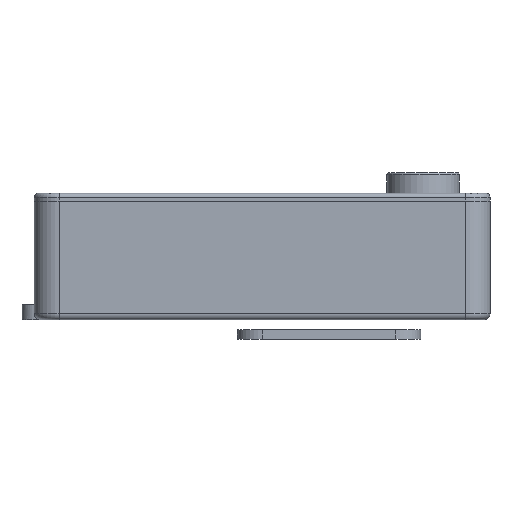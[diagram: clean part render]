
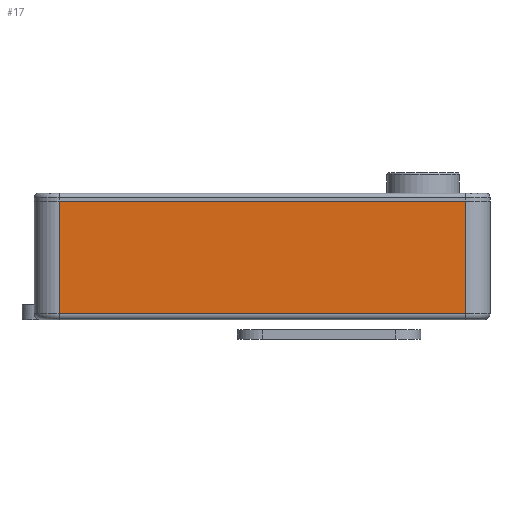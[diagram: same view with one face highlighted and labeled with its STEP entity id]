
A CAD part, left-side view. The second image highlights one B-rep face of the part: STEP entity #17.
In plain terms, the highlighted planar face has unit normal (-1, 0, 0).
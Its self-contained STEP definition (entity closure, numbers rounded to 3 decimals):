
#17 = ADVANCED_FACE('',(#18),#32,.T.);
#18 = FACE_BOUND('',#19,.T.);
#19 = EDGE_LOOP('',(#20,#55,#83,#111));
#20 = ORIENTED_EDGE('',*,*,#21,.T.);
#21 = EDGE_CURVE('',#22,#24,#26,.T.);
#22 = VERTEX_POINT('',#23);
#23 = CARTESIAN_POINT('',(-24.5,-27.5,-4.3));
#24 = VERTEX_POINT('',#25);
#25 = CARTESIAN_POINT('',(-24.5,-27.5,18.4));
#26 = SURFACE_CURVE('',#27,(#31,#43),.PCURVE_S1.);
#27 = LINE('',#28,#29);
#28 = CARTESIAN_POINT('',(-24.5,-27.5,-5.5));
#29 = VECTOR('',#30,1.);
#30 = DIRECTION('',(0.,0.,1.));
#31 = PCURVE('',#32,#37);
#32 = PLANE('',#33);
#33 = AXIS2_PLACEMENT_3D('',#34,#35,#36);
#34 = CARTESIAN_POINT('',(-24.5,-27.5,-5.5));
#35 = DIRECTION('',(-1.,0.,0.));
#36 = DIRECTION('',(0.,1.,0.));
#37 = DEFINITIONAL_REPRESENTATION('',(#38),#42);
#38 = LINE('',#39,#40);
#39 = CARTESIAN_POINT('',(0.,0.));
#40 = VECTOR('',#41,1.);
#41 = DIRECTION('',(0.,-1.));
#42 = ( GEOMETRIC_REPRESENTATION_CONTEXT(2) 
PARAMETRIC_REPRESENTATION_CONTEXT() REPRESENTATION_CONTEXT('2D SPACE',''
  ) );
#43 = PCURVE('',#44,#49);
#44 = CYLINDRICAL_SURFACE('',#45,5.);
#45 = AXIS2_PLACEMENT_3D('',#46,#47,#48);
#46 = CARTESIAN_POINT('',(-19.5,-27.5,-5.5));
#47 = DIRECTION('',(-0.,-0.,-1.));
#48 = DIRECTION('',(1.,0.,0.));
#49 = DEFINITIONAL_REPRESENTATION('',(#50),#54);
#50 = LINE('',#51,#52);
#51 = CARTESIAN_POINT('',(-3.142,0.));
#52 = VECTOR('',#53,1.);
#53 = DIRECTION('',(-0.,-1.));
#54 = ( GEOMETRIC_REPRESENTATION_CONTEXT(2) 
PARAMETRIC_REPRESENTATION_CONTEXT() REPRESENTATION_CONTEXT('2D SPACE',''
  ) );
#55 = ORIENTED_EDGE('',*,*,#56,.T.);
#56 = EDGE_CURVE('',#24,#57,#59,.T.);
#57 = VERTEX_POINT('',#58);
#58 = CARTESIAN_POINT('',(-24.5,54.5,18.4));
#59 = SURFACE_CURVE('',#60,(#64,#71),.PCURVE_S1.);
#60 = LINE('',#61,#62);
#61 = CARTESIAN_POINT('',(-24.5,13.5,18.4));
#62 = VECTOR('',#63,1.);
#63 = DIRECTION('',(0.,1.,0.));
#64 = PCURVE('',#32,#65);
#65 = DEFINITIONAL_REPRESENTATION('',(#66),#70);
#66 = LINE('',#67,#68);
#67 = CARTESIAN_POINT('',(41.,-23.9));
#68 = VECTOR('',#69,1.);
#69 = DIRECTION('',(1.,0.));
#70 = ( GEOMETRIC_REPRESENTATION_CONTEXT(2) 
PARAMETRIC_REPRESENTATION_CONTEXT() REPRESENTATION_CONTEXT('2D SPACE',''
  ) );
#71 = PCURVE('',#72,#77);
#72 = PLANE('',#73);
#73 = AXIS2_PLACEMENT_3D('',#74,#75,#76);
#74 = CARTESIAN_POINT('',(0.,13.5,18.4));
#75 = DIRECTION('',(0.,0.,1.));
#76 = DIRECTION('',(1.,0.,-0.));
#77 = DEFINITIONAL_REPRESENTATION('',(#78),#82);
#78 = LINE('',#79,#80);
#79 = CARTESIAN_POINT('',(-24.5,0.));
#80 = VECTOR('',#81,1.);
#81 = DIRECTION('',(0.,1.));
#82 = ( GEOMETRIC_REPRESENTATION_CONTEXT(2) 
PARAMETRIC_REPRESENTATION_CONTEXT() REPRESENTATION_CONTEXT('2D SPACE',''
  ) );
#83 = ORIENTED_EDGE('',*,*,#84,.F.);
#84 = EDGE_CURVE('',#85,#57,#87,.T.);
#85 = VERTEX_POINT('',#86);
#86 = CARTESIAN_POINT('',(-24.5,54.5,-4.3));
#87 = SURFACE_CURVE('',#88,(#92,#99),.PCURVE_S1.);
#88 = LINE('',#89,#90);
#89 = CARTESIAN_POINT('',(-24.5,54.5,-5.5));
#90 = VECTOR('',#91,1.);
#91 = DIRECTION('',(0.,0.,1.));
#92 = PCURVE('',#32,#93);
#93 = DEFINITIONAL_REPRESENTATION('',(#94),#98);
#94 = LINE('',#95,#96);
#95 = CARTESIAN_POINT('',(82.,0.));
#96 = VECTOR('',#97,1.);
#97 = DIRECTION('',(0.,-1.));
#98 = ( GEOMETRIC_REPRESENTATION_CONTEXT(2) 
PARAMETRIC_REPRESENTATION_CONTEXT() REPRESENTATION_CONTEXT('2D SPACE',''
  ) );
#99 = PCURVE('',#100,#105);
#100 = CYLINDRICAL_SURFACE('',#101,5.);
#101 = AXIS2_PLACEMENT_3D('',#102,#103,#104);
#102 = CARTESIAN_POINT('',(-19.5,54.5,-5.5));
#103 = DIRECTION('',(-0.,-0.,-1.));
#104 = DIRECTION('',(1.,0.,0.));
#105 = DEFINITIONAL_REPRESENTATION('',(#106),#110);
#106 = LINE('',#107,#108);
#107 = CARTESIAN_POINT('',(-3.142,0.));
#108 = VECTOR('',#109,1.);
#109 = DIRECTION('',(-0.,-1.));
#110 = ( GEOMETRIC_REPRESENTATION_CONTEXT(2) 
PARAMETRIC_REPRESENTATION_CONTEXT() REPRESENTATION_CONTEXT('2D SPACE',''
  ) );
#111 = ORIENTED_EDGE('',*,*,#112,.F.);
#112 = EDGE_CURVE('',#22,#85,#113,.T.);
#113 = SURFACE_CURVE('',#114,(#118,#125),.PCURVE_S1.);
#114 = LINE('',#115,#116);
#115 = CARTESIAN_POINT('',(-24.5,-27.5,-4.3));
#116 = VECTOR('',#117,1.);
#117 = DIRECTION('',(0.,1.,0.));
#118 = PCURVE('',#32,#119);
#119 = DEFINITIONAL_REPRESENTATION('',(#120),#124);
#120 = LINE('',#121,#122);
#121 = CARTESIAN_POINT('',(0.,-1.2));
#122 = VECTOR('',#123,1.);
#123 = DIRECTION('',(1.,0.));
#124 = ( GEOMETRIC_REPRESENTATION_CONTEXT(2) 
PARAMETRIC_REPRESENTATION_CONTEXT() REPRESENTATION_CONTEXT('2D SPACE',''
  ) );
#125 = PCURVE('',#126,#131);
#126 = CYLINDRICAL_SURFACE('',#127,1.2);
#127 = AXIS2_PLACEMENT_3D('',#128,#129,#130);
#128 = CARTESIAN_POINT('',(-23.3,-27.5,-4.3));
#129 = DIRECTION('',(0.,1.,0.));
#130 = DIRECTION('',(-1.,0.,0.));
#131 = DEFINITIONAL_REPRESENTATION('',(#132),#136);
#132 = LINE('',#133,#134);
#133 = CARTESIAN_POINT('',(-0.,0.));
#134 = VECTOR('',#135,1.);
#135 = DIRECTION('',(-0.,1.));
#136 = ( GEOMETRIC_REPRESENTATION_CONTEXT(2) 
PARAMETRIC_REPRESENTATION_CONTEXT() REPRESENTATION_CONTEXT('2D SPACE',''
  ) );
